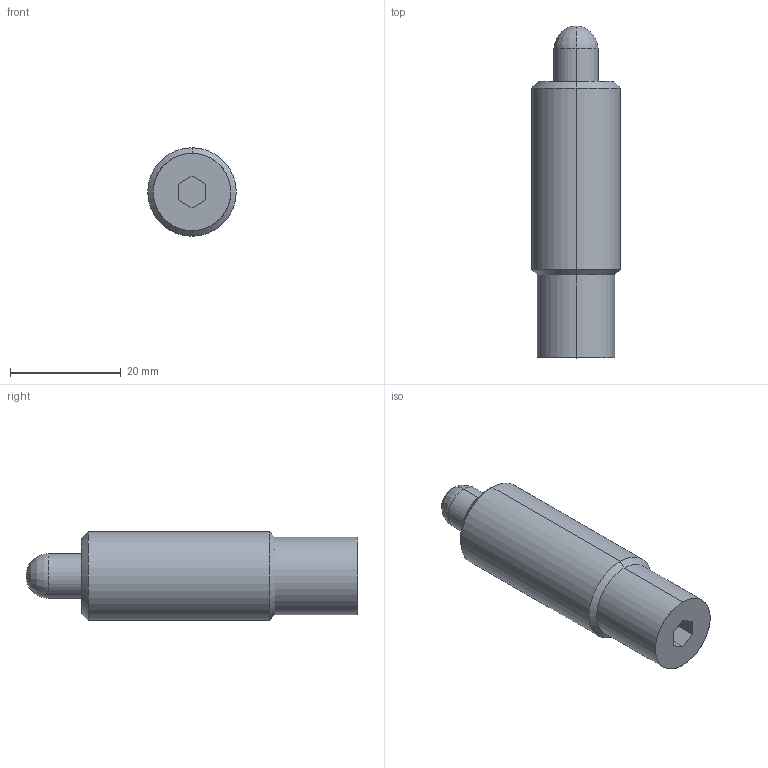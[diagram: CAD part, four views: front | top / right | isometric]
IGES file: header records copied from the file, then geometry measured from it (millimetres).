
Start section: START RECORD GO HERE.
Global section: file name: M314-04-004.igs; native system: DASSAULT SYSTEMES CATIA V5 R20 - www.3ds.com; preprocessor: CATIA Version 5 Release 20 ; author: Utente; organization: NB04-ASUS; date: 20200418.091257; units: millimetre
Bounding box: 16 x 60 x 16 mm (x, y, z)
Surface area: 3040 mm2 (no closed solid volume)
Topology: 0 solids, 0 shells, 21 faces, 90 edges, 88 vertices
Faces by surface type: revolution 12, extrusion 9
